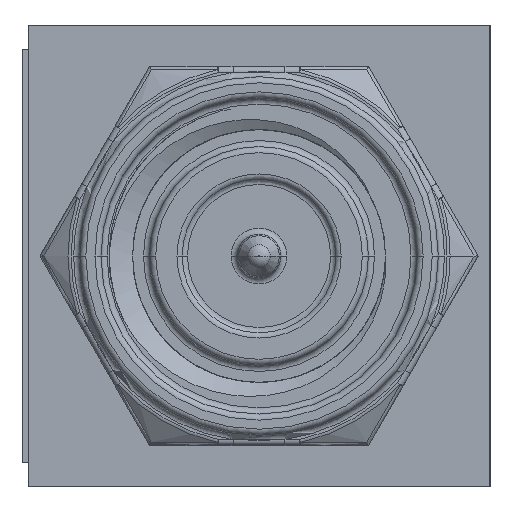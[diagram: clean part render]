
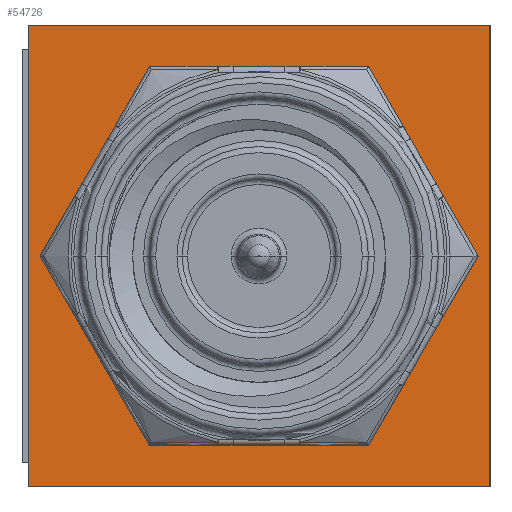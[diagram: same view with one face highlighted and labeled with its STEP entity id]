
A CAD part, left-side view. The second image highlights one B-rep face of the part: STEP entity #54726.
In plain terms, the highlighted planar face has unit normal (-1, 0, 0).
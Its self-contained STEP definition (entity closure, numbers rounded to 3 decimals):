
#533 = VERTEX_POINT ( 'NONE', #43678 ) ;
#1462 = CARTESIAN_POINT ( 'NONE',  ( 0., -4.826, -4.826 ) ) ;
#4136 = CARTESIAN_POINT ( 'NONE',  ( 0., -4.826, -2.311 ) ) ;
#10147 = CARTESIAN_POINT ( 'NONE',  ( 0., -9.652, 0. ) ) ;
#12100 = DIRECTION ( 'NONE',  ( -1., 0., 0. ) ) ;
#12481 = ORIENTED_EDGE ( 'NONE', *, *, #15994, .F. ) ;
#12600 = VERTEX_POINT ( 'NONE', #10147 ) ;
#12633 = LINE ( 'NONE', #33555, #42471 ) ;
#12668 = FACE_OUTER_BOUND ( 'NONE', #40452, .T. ) ;
#14173 = AXIS2_PLACEMENT_3D ( 'NONE', #26031, #25678, #15749 ) ;
#14422 = ORIENTED_EDGE ( 'NONE', *, *, #52274, .T. ) ;
#14703 = DIRECTION ( 'NONE',  ( 0., 0., 1. ) ) ;
#14966 = EDGE_CURVE ( 'NONE', #533, #26495, #12633, .T. ) ;
#15333 = CARTESIAN_POINT ( 'NONE',  ( 0., -4.826, -7.341 ) ) ;
#15749 = DIRECTION ( 'NONE',  ( 0., 0., 1. ) ) ;
#15994 = EDGE_CURVE ( 'NONE', #17701, #60942, #43745, .T. ) ;
#16882 = LINE ( 'NONE', #32283, #19562 ) ;
#17701 = VERTEX_POINT ( 'NONE', #15333 ) ;
#18932 = AXIS2_PLACEMENT_3D ( 'NONE', #63759, #43221, #39096 ) ;
#19562 = VECTOR ( 'NONE', #43276, 1000. ) ;
#20852 = CARTESIAN_POINT ( 'NONE',  ( 0., 0., 0. ) ) ;
#21719 = VECTOR ( 'NONE', #50912, 1000. ) ;
#22794 = ORIENTED_EDGE ( 'NONE', *, *, #34696, .T. ) ;
#23052 = CARTESIAN_POINT ( 'NONE',  ( 0., 0., -9.652 ) ) ;
#23291 = CIRCLE ( 'NONE', #46335, 2.515 ) ;
#25678 = DIRECTION ( 'NONE',  ( -1., 0., 0. ) ) ;
#26031 = CARTESIAN_POINT ( 'NONE',  ( 0., -4.826, -4.826 ) ) ;
#26495 = VERTEX_POINT ( 'NONE', #23052 ) ;
#28475 = FACE_BOUND ( 'NONE', #32263, .T. ) ;
#32263 = EDGE_LOOP ( 'NONE', ( #59335, #12481 ) ) ;
#32283 = CARTESIAN_POINT ( 'NONE',  ( 0., -9.652, 0. ) ) ;
#33555 = CARTESIAN_POINT ( 'NONE',  ( 0., -9.652, -9.652 ) ) ;
#34696 = EDGE_CURVE ( 'NONE', #12600, #49413, #16882, .T. ) ;
#35389 = ORIENTED_EDGE ( 'NONE', *, *, #53981, .F. ) ;
#39096 = DIRECTION ( 'NONE',  ( 0., 0., 1. ) ) ;
#40452 = EDGE_LOOP ( 'NONE', ( #35389, #52850, #14422, #22794 ) ) ;
#40585 = EDGE_CURVE ( 'NONE', #60942, #17701, #23291, .T. ) ;
#40635 = CARTESIAN_POINT ( 'NONE',  ( 0., -9.652, 0. ) ) ;
#42471 = VECTOR ( 'NONE', #54479, 1000. ) ;
#43221 = DIRECTION ( 'NONE',  ( -1., 0., 0. ) ) ;
#43276 = DIRECTION ( 'NONE',  ( 0., 1., 0. ) ) ;
#43678 = CARTESIAN_POINT ( 'NONE',  ( 0., -9.652, -9.652 ) ) ;
#43745 = CIRCLE ( 'NONE', #14173, 2.515 ) ;
#46335 = AXIS2_PLACEMENT_3D ( 'NONE', #1462, #12100, #52594 ) ;
#49055 = PLANE ( 'NONE',  #18932 ) ;
#49413 = VERTEX_POINT ( 'NONE', #50757 ) ;
#50581 = LINE ( 'NONE', #40635, #21719 ) ;
#50757 = CARTESIAN_POINT ( 'NONE',  ( 0., 0., 0. ) ) ;
#50912 = DIRECTION ( 'NONE',  ( 0., 0., 1. ) ) ;
#52274 = EDGE_CURVE ( 'NONE', #533, #12600, #50581, .T. ) ;
#52594 = DIRECTION ( 'NONE',  ( 0., 0., 1. ) ) ;
#52850 = ORIENTED_EDGE ( 'NONE', *, *, #14966, .F. ) ;
#53981 = EDGE_CURVE ( 'NONE', #26495, #49413, #62664, .T. ) ;
#54479 = DIRECTION ( 'NONE',  ( 0., 1., 0. ) ) ;
#54726 = ADVANCED_FACE ( 'NONE', ( #12668, #28475 ), #49055, .T. ) ;
#55984 = VECTOR ( 'NONE', #14703, 1000. ) ;
#59335 = ORIENTED_EDGE ( 'NONE', *, *, #40585, .F. ) ;
#60942 = VERTEX_POINT ( 'NONE', #4136 ) ;
#62664 = LINE ( 'NONE', #20852, #55984 ) ;
#63759 = CARTESIAN_POINT ( 'NONE',  ( 0., -9.652, 0. ) ) ;
